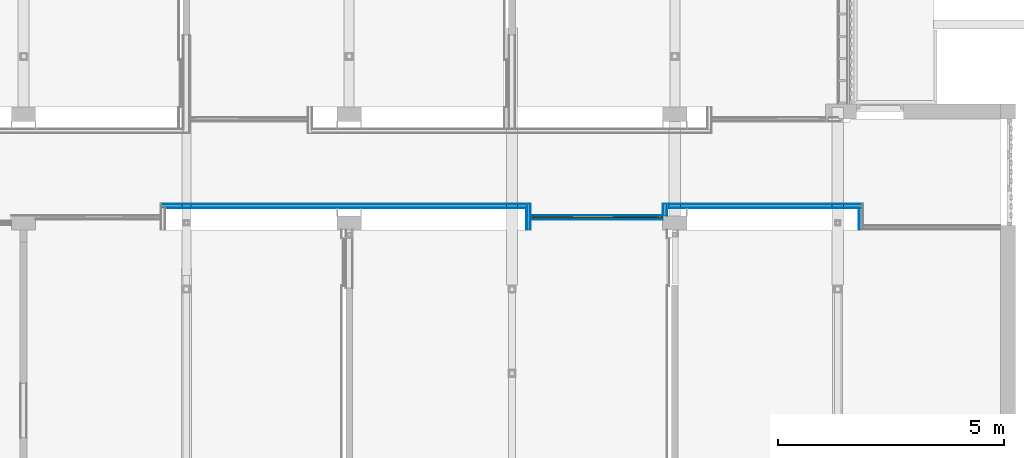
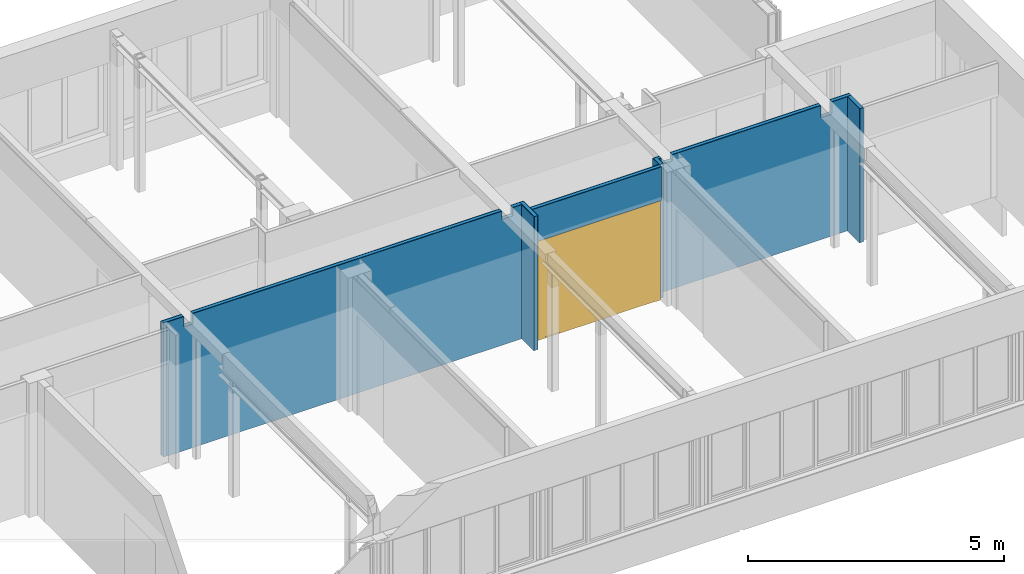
# One storey, part 68 of 99: 17 building element parts, 1 door, 1 opening, 6 elements without a shape of their own.
"""IFC2X3 building model written with IfcOpenShell, lengths in millimetres."""

import ifcopenshell
import ifcopenshell.guid

model = None  # the IFC model being written
_history = None  # IfcOwnerHistory: only IFC2X3 demands one
_inside = {}  # id of a spatial element -> (the spatial element, [elements in it])
_under = {}  # id of a project, library or spatial element -> (it, [spatial elements below it])
_declared = {}  # id of a project -> (the project, [libraries it declares])
_typed = {}  # id of a type object -> (the type object, [elements of that type])
_made_of = {}  # id of a material, layer set ... -> (it, [elements and type objects made of it])


def new_model(schema):
    """Start an empty IFC model of exactly this schema.

    Asked for "IFC4X3", IfcOpenShell would pick the latest addendum, in which some entities
    have other attributes; the version numbers below select the first issue.
    IFC2X3 requires an IfcOwnerHistory on every rooted entity: one is made here for all.
    """
    global model, _history
    if schema == "IFC4X3":
        model = ifcopenshell.file(schema_version=(4, 3, 0, 0))
    else:
        model = ifcopenshell.file(schema=schema)
    _inside.clear()
    _under.clear()
    _declared.clear()
    _typed.clear()
    _made_of.clear()
    _history = None
    if model.schema == "IFC2X3":
        org = make("IfcOrganization", Name="unknown")
        user = make(
            "IfcPersonAndOrganization",
            ThePerson=make("IfcPerson", FamilyName="unknown"),
            TheOrganization=org,
        )
        app = make(
            "IfcApplication",
            ApplicationDeveloper=org,
            Version="unknown",
            ApplicationFullName="unknown",
            ApplicationIdentifier="unknown",
        )
        _history = make(
            "IfcOwnerHistory",
            OwningUser=user,
            OwningApplication=app,
            ChangeAction="ADDED",
            CreationDate=0,
        )
    return model


def make(cls, **values):
    """One entity of the class cls with the attributes given. An attribute that is None is left unset."""
    return model.create_entity(
        cls, **{name: value for name, value in values.items() if value is not None}
    )


def entity(cls, *values):
    """Any entity or typed value of the class cls, its attributes in the order of the schema. None: left unset."""
    e = model.create_entity(cls)
    for i, value in enumerate(values):
        if value is not None:
            e[i] = value
    return e


def rooted(cls, **values):
    """An entity with a GlobalId (a new one), such as an element, a storey or a relation."""
    return make(cls, GlobalId=ifcopenshell.guid.new(), OwnerHistory=_history, **values)


def si_unit(unit_type, name, prefix=None):
    """IfcSIUnit, for example si_unit("LENGTHUNIT", "METRE", prefix="MILLI")."""
    return make("IfcSIUnit", UnitType=unit_type, Prefix=prefix, Name=name)


def converted_unit(unit_type, name, factor, base, dimensions=None, offset=None):
    """IfcConversionBasedUnit, such as the inch: factor (a typed value) times the base unit."""
    return make(
        "IfcConversionBasedUnit"
        if offset is None
        else "IfcConversionBasedUnitWithOffset",
        ConversionOffset=offset,
        Dimensions=None
        if dimensions is None
        else entity("IfcDimensionalExponents", *dimensions),
        UnitType=unit_type,
        Name=name,
        ConversionFactor=make(
            "IfcMeasureWithUnit", ValueComponent=factor, UnitComponent=base
        ),
    )


def derived_unit(unit_type, elements):
    """IfcDerivedUnit: a product of units, each with its exponent."""
    return make(
        "IfcDerivedUnit",
        Elements=[
            make("IfcDerivedUnitElement", Unit=unit, Exponent=power)
            for unit, power in elements
        ],
        UnitType=unit_type,
    )


def money_unit(currency):
    """IfcMonetaryUnit."""
    return make("IfcMonetaryUnit", Currency=currency)


def assignment(units):
    """IfcUnitAssignment: the units of a project."""
    return None if units is None else make("IfcUnitAssignment", Units=units)


def point(xyz):
    """IfcCartesianPoint."""
    return None if xyz is None else make("IfcCartesianPoint", Coordinates=xyz)


def direction(xyz):
    """IfcDirection."""
    return None if xyz is None else make("IfcDirection", DirectionRatios=xyz)


def frame(location, z_axis=None, x_axis=None):
    """IfcAxis2Placement3D, a coordinate frame: its origin and axes. An axis left out is left unset."""
    return make(
        "IfcAxis2Placement3D",
        Location=point(location),
        Axis=direction(z_axis),
        RefDirection=direction(x_axis),
    )


def origin_with_axes():
    """The frame at (0, 0, 0) with the z axis (0, 0, 1) and the x axis (1, 0, 0) written out."""
    return frame((0.0, 0.0, 0.0), z_axis=(0.0, 0.0, 1.0), x_axis=(1.0, 0.0, 0.0))


def place(relative_to, where):
    """IfcLocalPlacement: puts the frame where relative to a parent placement (None: the world)."""
    return make(
        "IfcLocalPlacement", PlacementRelTo=relative_to, RelativePlacement=where
    )


def context(
    kind, dimensions, precision=None, world=None, true_north=None, identifier=None
):
    """IfcGeometricRepresentationContext, for example the 3D "Model" context."""
    return make(
        "IfcGeometricRepresentationContext",
        ContextIdentifier=identifier,
        ContextType=kind,
        CoordinateSpaceDimension=dimensions,
        Precision=precision,
        WorldCoordinateSystem=world,
        TrueNorth=true_north,
    )


def subcontext(parent, identifier, kind, view, scale=None):
    """IfcGeometricRepresentationSubContext, for example "Body" below "Model"."""
    return make(
        "IfcGeometricRepresentationSubContext",
        ContextIdentifier=identifier,
        ContextType=kind,
        ParentContext=parent,
        TargetScale=scale,
        TargetView=view,
    )


def project(units=None, contexts=None):
    """IfcProject with its units and contexts."""
    return rooted(
        "IfcProject",
        Name="project",
        RepresentationContexts=contexts,
        UnitsInContext=assignment(units),
    )


def spatial(cls, under=None, at=None, **own):
    """A site, building, storey or space (cls), placed at a placement, below another one or the project."""
    s = rooted(cls, ObjectPlacement=at, **own)
    if under is not None:
        _under.setdefault(under.id(), (under, []))[1].append(s)
    return s


def faces_of(points, faces, orient=None, outer=None):
    """IfcFace entities. A face is a list of loops; a loop is a list of indices into points, from 0.

    orient and outer hold one flag for each loop. By default every Orientation is true, the
    first loop of a face is its IfcFaceOuterBound and the others are IfcFaceBound.
    """
    made = []
    for i, loops in enumerate(faces):
        bounds = []
        for j, loop in enumerate(loops):
            is_outer = j == 0 if outer is None else outer[i][j]
            bounds.append(
                make(
                    "IfcFaceOuterBound" if is_outer else "IfcFaceBound",
                    Bound=make("IfcPolyLoop", Polygon=[points[k] for k in loop]),
                    Orientation=True if orient is None else orient[i][j],
                )
            )
        made.append(make("IfcFace", Bounds=bounds))
    return made


def open_shell(faces, orient=None, outer=None):
    """The faces of one IfcOpenShell. surface_model builds it on its shared points."""
    return ("IfcOpenShell", faces, orient, outer)


def faceted_brep(points, faces, orient=None, outer=None, voids=None):
    """IfcFacetedBrep: a solid bounded by flat faces; with voids (closed shells), ...WithVoids."""
    shared = [point(p) for p in points]
    hull = make("IfcClosedShell", CfsFaces=faces_of(shared, faces, orient, outer))
    if voids is None:
        return make("IfcFacetedBrep", Outer=hull)
    return make(
        "IfcFacetedBrepWithVoids",
        Outer=hull,
        Voids=[
            make(cls, CfsFaces=faces_of(shared, fs, o, b)) for cls, fs, o, b in voids
        ],
    )


def surface_model(cls, points, shells):
    """IfcFaceBasedSurfaceModel or IfcShellBasedSurfaceModel (cls): surfaces that need not close."""
    shared = [point(p) for p in points]
    made = [make(c, CfsFaces=faces_of(shared, fs, o, b)) for c, fs, o, b in shells]
    if cls == "IfcFaceBasedSurfaceModel":
        return make(cls, FbsmFaces=made)
    return make(cls, SbsmBoundary=made)


def shape(context_of_items, identifier, shape_type, items):
    """IfcShapeRepresentation: the items that make up one representation, for example the "Body"."""
    return make(
        "IfcShapeRepresentation",
        ContextOfItems=context_of_items,
        RepresentationIdentifier=identifier,
        RepresentationType=shape_type,
        Items=items,
    )


def material(Name=None, Category=None):
    """IfcMaterial."""
    return make("IfcMaterial", Name=Name, Category=Category)


def made_of(thing, what):
    """Note that an element or type object is made of a material, layer set ...; save() writes the relation."""
    if what is not None:
        _made_of.setdefault(what.id(), (what, []))[1].append(thing)
    return thing


def type_object(cls, material=None, **own):
    """A type object (cls), such as IfcWallType, which elements share."""
    return made_of(rooted(cls, **own), material)


def element(
    cls,
    number,
    at=None,
    inside=None,
    cuts=None,
    type_object=None,
    material=None,
    context=None,
    identifier="Body",
    shape_type=None,
    held_by="IfcProductDefinitionShape",
    body=None,
    shapes=None,
    **own,
):
    """One element of the class cls, such as IfcWall. Its Tag is "e" and its number.

    at: its placement. inside: the storey or other place that contains it. cuts: it is an
    opening in that element (IfcRelVoidsElement). A single representation is given by context,
    identifier, shape_type and body (its items); several are given by shapes. held_by: the class
    of the entity that holds the representations. save() writes the other relations.
    """
    e = rooted(cls, Tag="e%d" % number, ObjectPlacement=at, **own)
    if body is not None:
        shapes = [shape(context, identifier, shape_type, body)]
    if shapes is not None:
        e.Representation = make(held_by, Representations=shapes)
    if inside is not None:
        _inside.setdefault(inside.id(), (inside, []))[1].append(e)
    if cuts is not None:
        rooted(
            "IfcRelVoidsElement", RelatingBuildingElement=cuts, RelatedOpeningElement=e
        )
    if type_object is not None:
        _typed.setdefault(type_object.id(), (type_object, []))[1].append(e)
    return made_of(e, material)


def fill(opening, filler):
    """IfcRelFillsElement: the door or window that sits in an opening."""
    return rooted(
        "IfcRelFillsElement",
        RelatingOpeningElement=opening,
        RelatedBuildingElement=filler,
    )


def aggregate(whole, parts):
    """IfcRelAggregates: a whole, such as a stair, and the parts it consists of."""
    return rooted("IfcRelAggregates", RelatingObject=whole, RelatedObjects=parts)


def save(model, path):
    """Write the relations noted so far, then the file.

    IfcRelAggregates (storeys below a building ...), IfcRelContainedInSpatialStructure (elements
    in a storey), IfcRelDefinesByType, IfcRelAssociatesMaterial and IfcRelDeclares: one each for
    every whole, place, type object, material and project.
    """
    for whole, parts in _under.values():
        aggregate(whole, parts)
    for where, things in _inside.values():
        rooted(
            "IfcRelContainedInSpatialStructure",
            RelatedElements=things,
            RelatingStructure=where,
        )
    for kind, things in _typed.values():
        rooted("IfcRelDefinesByType", RelatedObjects=things, RelatingType=kind)
    for what, things in _made_of.values():
        rooted("IfcRelAssociatesMaterial", RelatedObjects=things, RelatingMaterial=what)
    for by, libraries in _declared.values():
        rooted("IfcRelDeclares", RelatingContext=by, RelatedDefinitions=libraries)
    model.write(path)


model = new_model("IFC2X3")

# Units and contexts
model_context = context("Model", 3, precision=0.01, world=origin_with_axes(), true_north=direction((0.0, 1.0)))
body_context = subcontext(model_context, "Body", "Model", "MODEL_VIEW")
ifc_project = project(units=[si_unit("LENGTHUNIT", "METRE", prefix="MILLI"), si_unit("AREAUNIT", "SQUARE_METRE"), si_unit("VOLUMEUNIT", "CUBIC_METRE"), converted_unit("PLANEANGLEUNIT", "DEGREE", entity("IfcPlaneAngleMeasure", 0.0174532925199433), si_unit("PLANEANGLEUNIT", "RADIAN"), dimensions=[0, 0, 0, 0, 0, 0, 0]), money_unit("EUR"), converted_unit("TIMEUNIT", "Year", entity("IfcTimeMeasure", 31557600.0), si_unit("TIMEUNIT", "SECOND"), dimensions=[0, 0, 1, 0, 0, 0, 0]), si_unit("MASSUNIT", "GRAM", prefix="KILO"), si_unit("THERMODYNAMICTEMPERATUREUNIT", "DEGREE_CELSIUS"), si_unit("LUMINOUSINTENSITYUNIT", "LUMEN"), si_unit("ENERGYUNIT", "JOULE", prefix="MEGA"), derived_unit("THERMALCONDUCTANCEUNIT", [(si_unit("POWERUNIT", "WATT"), 1), (si_unit("LENGTHUNIT", "METRE"), -1), (si_unit("THERMODYNAMICTEMPERATUREUNIT", "KELVIN"), -1)]), derived_unit("SPECIFICHEATCAPACITYUNIT", [(si_unit("ENERGYUNIT", "JOULE"), 1), (si_unit("MASSUNIT", "GRAM", prefix="KILO"), -1), (si_unit("THERMODYNAMICTEMPERATUREUNIT", "KELVIN"), -1)]), derived_unit("MASSDENSITYUNIT", [(si_unit("MASSUNIT", "GRAM", prefix="KILO"), 1), (si_unit("VOLUMEUNIT", "CUBIC_METRE"), -1)])], contexts=[model_context])

# Site, building, storey
site_placement = place(None, origin_with_axes())
site = spatial("IfcSite", under=ifc_project, at=site_placement, Name="Site", CompositionType="ELEMENT")
building_placement = place(site_placement, origin_with_axes())
building = spatial("IfcBuilding", under=site, at=building_placement, Name="Naam gebouw", CompositionType="ELEMENT")
storey_placement = place(building_placement, frame((0.0, 0.0, 7650.0), z_axis=(0.0, 0.0, 1.0), x_axis=(1.0, 0.0, 0.0)))
storey = spatial("IfcBuildingStorey", under=building, at=storey_placement, Name="2e verdieping N", CompositionType="ELEMENT", Elevation=7650.0)

# Door
door_style = type_object("IfcDoorStyle", Name="D1 zl2 27", ConstructionType="NOTDEFINED", OperationType="USERDEFINED", ParameterTakesPrecedence=False, Sizeable=False)
wall_6_placement = place(storey_placement, frame((47220.00000000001, 18145.9124251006, 0.0), z_axis=(0.0, 0.0, 1.0), x_axis=(1.0, 0.0, 0.0)))
opening_placement = place(wall_6_placement, frame((1455.000000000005, 0.0, 0.0), z_axis=(0.0, 0.0, 1.0), x_axis=(1.0, 0.0, 0.0)))
door_placement = place(opening_placement, frame((1455.000000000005, 0.0, 0.0), z_axis=(0.0, 0.0, 1.0), x_axis=(-1.0, 0.0, 0.0)))
door = element("IfcDoor", 1, at=door_placement, inside=storey, type_object=door_style, Name="_Merk-x", ObjectType="DOOR", OverallHeight=2400.0, OverallWidth=2910.0, context=body_context, shape_type="SurfaceModel", body=[
    faceted_brep([(2910.000000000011, 10.00000000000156, 0.0), (2910.000000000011, -9.99999999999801, 0.0), (2880.00000000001, -9.99999999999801, 0.0), (2880.00000000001, 10.00000000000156, 0.0), (2910.000000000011, 10.00000000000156, 2369.999999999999), (2910.000000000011, -9.99999999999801, 2369.999999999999), (2880.00000000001, -9.99999999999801, 2369.999999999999), (2880.00000000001, -9.99999999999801, 30.00000000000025), (2880.00000000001, 10.00000000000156, 30.00000000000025), (2880.00000000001, 10.00000000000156, 2369.999999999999)], [[[0, 1, 2, 3]], [[4, 5, 1, 0]], [[1, 5, 6, 7, 2]], [[3, 2, 7, 8]], [[0, 3, 8, 9, 4]], [[9, 6, 5, 4]], [[8, 7, 6, 9]]]),
    faceted_brep([(1060.000000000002, -8.999999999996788, 0.0), (1060.000000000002, -9.99999999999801, 0.0), (1060.000000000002, -9.99999999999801, 2369.999999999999), (1060.000000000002, -8.999999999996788, 2369.999999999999), (1076.999999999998, -8.999999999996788, 0.0), (1076.999999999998, 10.00000000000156, 0.0), (1089.999999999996, 10.00000000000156, 0.0), (1089.999999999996, -9.99999999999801, 0.0), (1089.999999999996, -9.99999999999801, 30.00000000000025), (1089.999999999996, -9.99999999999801, 2369.999999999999), (1076.999999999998, -8.999999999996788, 2369.999999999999), (1089.999999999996, 10.00000000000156, 2369.999999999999), (1076.999999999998, 10.00000000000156, 2369.999999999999), (1089.999999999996, 10.00000000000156, 30.00000000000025)], [[[0, 1, 2, 3]], [[4, 5, 6, 7, 1, 0]], [[7, 8, 9, 2, 1]], [[10, 3, 2, 9, 11, 12]], [[10, 4, 0, 3]], [[12, 5, 4, 10]], [[12, 11, 13, 6, 5]], [[6, 13, 8, 7]], [[13, 11, 9, 8]]]),
    faceted_brep([(2880.00000000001, 10.00000000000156, 30.00000000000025), (2880.00000000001, -9.99999999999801, 30.00000000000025), (2880.00000000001, -9.99999999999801, 0.0), (2880.00000000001, 10.00000000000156, 0.0), (1089.999999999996, 10.00000000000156, 30.00000000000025), (1089.999999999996, -9.99999999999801, 30.00000000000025), (1089.999999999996, -9.99999999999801, 0.0), (1089.999999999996, 10.00000000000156, 0.0)], [[[0, 1, 2, 3]], [[4, 5, 1, 0]], [[1, 5, 6, 2]], [[3, 2, 6, 7]], [[0, 3, 7, 4]], [[7, 6, 5, 4]]]),
    faceted_brep([(0.0, 10.00000000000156, 0.0), (0.0, -9.99999999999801, 0.0), (0.0, -9.99999999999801, 2369.999999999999), (0.0, 10.00000000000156, 2369.999999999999), (30.00000000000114, 10.00000000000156, 0.0), (30.00000000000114, -9.99999999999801, 0.0), (30.00000000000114, -9.99999999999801, 30.00000000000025), (30.00000000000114, -9.99999999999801, 2369.999999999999), (30.00000000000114, 10.00000000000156, 2369.999999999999), (30.00000000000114, 10.00000000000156, 30.00000000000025)], [[[0, 1, 2, 3]], [[4, 5, 1, 0]], [[1, 5, 6, 7, 2]], [[3, 2, 7, 8]], [[0, 3, 8, 9, 4]], [[9, 6, 5, 4]], [[8, 7, 6, 9]]]),
    faceted_brep([(143.0000000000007, -8.999999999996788, 2369.999999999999), (143.0000000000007, 10.00000000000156, 2369.999999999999), (130.0000000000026, 10.00000000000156, 2369.999999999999), (130.0000000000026, -9.99999999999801, 2369.999999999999), (159.9999999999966, -9.99999999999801, 2369.999999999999), (159.9999999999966, -8.999999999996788, 2369.999999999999), (143.0000000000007, -8.999999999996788, 0.0), (143.0000000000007, 10.00000000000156, 0.0), (130.0000000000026, 10.00000000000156, 0.0), (130.0000000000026, 10.00000000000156, 30.00000000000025), (130.0000000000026, -9.99999999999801, 30.00000000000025), (159.9999999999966, -9.99999999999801, 0.0), (130.0000000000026, -9.99999999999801, 0.0), (159.9999999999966, -8.999999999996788, 0.0)], [[[0, 1, 2, 3, 4, 5]], [[0, 6, 7, 1]], [[7, 8, 9, 2, 1]], [[2, 9, 10, 3]], [[11, 4, 3, 10, 12]], [[5, 4, 11, 13]], [[5, 13, 6, 0]], [[6, 13, 11, 12, 8, 7]], [[9, 8, 12, 10]]]),
    faceted_brep([(130.0000000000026, 10.00000000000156, 30.00000000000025), (130.0000000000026, -9.99999999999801, 30.00000000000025), (130.0000000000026, -9.99999999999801, 0.0), (130.0000000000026, 10.00000000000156, 0.0), (30.00000000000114, 10.00000000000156, 30.00000000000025), (30.00000000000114, -9.99999999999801, 30.00000000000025), (30.00000000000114, -9.99999999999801, 0.0), (30.00000000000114, 10.00000000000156, 0.0)], [[[0, 1, 2, 3]], [[4, 5, 1, 0]], [[1, 5, 6, 2]], [[3, 2, 6, 7]], [[0, 3, 7, 4]], [[7, 6, 5, 4]]]),
    faceted_brep([(1076.999999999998, 10.00000000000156, 2387.0), (143.0000000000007, 10.00000000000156, 2387.0), (143.0000000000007, 10.00000000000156, 2369.999999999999), (130.0000000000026, 10.00000000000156, 2369.999999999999), (30.00000000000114, 10.00000000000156, 2369.999999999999), (0.0, 10.00000000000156, 2369.999999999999), (0.0, 10.00000000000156, 2400.0), (2910.000000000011, 10.00000000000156, 2400.0), (2910.000000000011, 10.00000000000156, 2369.999999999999), (2880.00000000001, 10.00000000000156, 2369.999999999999), (1089.999999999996, 10.00000000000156, 2369.999999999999), (1076.999999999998, 10.00000000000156, 2369.999999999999), (1076.999999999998, -8.999999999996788, 2387.0), (143.0000000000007, -8.999999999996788, 2387.0), (143.0000000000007, -8.999999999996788, 2369.999999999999), (159.9999999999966, -8.999999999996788, 2369.999999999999), (159.9999999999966, -9.99999999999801, 2369.999999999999), (130.0000000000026, -9.99999999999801, 2369.999999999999), (30.00000000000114, -9.99999999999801, 2369.999999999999), (0.0, -9.99999999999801, 2369.999999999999), (0.0, -9.99999999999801, 2400.0), (2910.000000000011, -9.99999999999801, 2400.0), (2910.000000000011, -9.99999999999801, 2369.999999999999), (2880.00000000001, -9.99999999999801, 2369.999999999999), (1089.999999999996, -9.99999999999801, 2369.999999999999), (1076.999999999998, -8.999999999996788, 2369.999999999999), (1060.000000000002, -9.99999999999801, 2369.999999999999)], [[[0, 1, 2, 3, 4, 5, 6, 7, 8, 9, 10, 11]], [[0, 12, 13, 1]], [[1, 13, 14, 2]], [[14, 15, 16, 17, 18, 4, 3, 2]], [[5, 4, 18, 19]], [[6, 5, 19, 20]], [[7, 6, 20, 21]], [[8, 7, 21, 22]], [[9, 8, 22, 23]], [[10, 9, 23, 24]], [[25, 11, 10, 24, 26, 16, 15]], [[11, 25, 12, 0]], [[14, 13, 12, 25, 15]], [[18, 17, 16, 26, 24, 23, 22, 21, 20, 19]]]),
    faceted_brep([(143.0000000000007, 1.000000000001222, 0.0), (1076.999999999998, 1.000000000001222, 0.0), (1076.999999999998, -8.999999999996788, 0.0), (143.0000000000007, -8.999999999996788, 0.0), (143.0000000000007, 1.000000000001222, 2387.0), (1076.999999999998, 1.000000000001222, 2387.0), (1076.999999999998, -9.000000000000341, 2387.0), (143.0000000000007, -9.000000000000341, 2387.0)], [[[0, 1, 2, 3]], [[0, 4, 5, 1]], [[1, 5, 6, 2]], [[3, 2, 6, 7]], [[4, 0, 3, 7]], [[5, 4, 7, 6]]]),
    surface_model("IfcShellBasedSurfaceModel", [(2880.00000000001, 9.000000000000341, 30.00000000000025), (1089.999999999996, 9.000000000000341, 30.00000000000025), (1089.999999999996, 9.000000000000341, 2369.999999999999), (2880.00000000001, 9.000000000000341, 2369.999999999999)], [open_shell([[[0, 1, 2, 3]]])]),
    surface_model("IfcShellBasedSurfaceModel", [(2880.00000000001, 1.000000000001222, 30.00000000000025), (2880.00000000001, 1.000000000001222, 2369.999999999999), (1089.999999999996, 1.000000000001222, 2369.999999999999), (1089.999999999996, 1.000000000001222, 30.00000000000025)], [open_shell([[[0, 1, 2, 3]]])]),
    surface_model("IfcShellBasedSurfaceModel", [(130.0000000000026, 9.000000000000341, 30.00000000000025), (30.00000000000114, 9.000000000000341, 30.00000000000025), (30.00000000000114, 9.000000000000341, 2369.999999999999), (130.0000000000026, 9.000000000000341, 2369.999999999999)], [open_shell([[[0, 1, 2, 3]]])]),
    surface_model("IfcShellBasedSurfaceModel", [(130.0000000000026, 1.000000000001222, 30.00000000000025), (130.0000000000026, 1.000000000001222, 2369.999999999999), (30.00000000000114, 1.000000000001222, 2369.999999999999), (30.00000000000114, 1.000000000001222, 30.00000000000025)], [open_shell([[[0, 1, 2, 3]]])]),
])

# Wall, building element parts
wall_type = type_object("IfcWallType", Name="Metalstud iso 100 100", PredefinedType="NOTDEFINED")
wall_1_placement = place(storey_placement, frame((50229.99999999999, 17870.91242510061, 0.0), z_axis=(0.0, 0.0, 1.0), x_axis=(0.0, 1.0, 0.0)))
wall_1 = element("IfcWall", 2, at=wall_1_placement, inside=storey, type_object=wall_type, Name="_Wand-x")
ifc_material_1 = material(Name="Gipsplaat")
building_element_part_1_placement = place(wall_1_placement, origin_with_axes())
building_element_part_1 = element("IfcBuildingElementPart", 3, at=building_element_part_1_placement, material=ifc_material_1, Name="Gipsplaat", context=body_context, shape_type="Brep", body=[
    faceted_brep([(310.0000000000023, 100.0000000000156, 3199.999999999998), (310.0000000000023, 87.49999999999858, 3199.999999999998), (574.9999999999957, 87.49999999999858, 3199.999999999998), (574.9999999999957, 100.0000000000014, 3199.999999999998), (310.0000000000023, 87.49999999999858, 0.0), (310.0000000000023, 100.0000000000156, 0.0), (574.9999999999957, 87.49999999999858, 0.0), (574.9999999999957, 100.0000000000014, 0.0)], [[[0, 1, 2, 3]], [[4, 1, 0, 5]], [[1, 4, 6, 2]], [[3, 2, 6, 7]], [[5, 0, 3, 7]], [[4, 5, 7, 6]]]),
])
ifc_material_2 = material(Name="Isolatie - Steenwol LSW")
building_element_part_2_placement = place(wall_1_placement, origin_with_axes())
building_element_part_2 = element("IfcBuildingElementPart", 4, at=building_element_part_2_placement, material=ifc_material_2, Name="Isolatie - Steenwol LSW", context=body_context, shape_type="Brep", body=[
    faceted_brep([(310.0000000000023, 87.49999999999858, 3199.999999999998), (310.0000000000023, 12.50000000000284, 3199.999999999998), (562.499999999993, 12.50000000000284, 3199.999999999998), (562.499999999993, 87.49999999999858, 3199.999999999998), (310.0000000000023, 12.50000000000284, 0.0), (310.0000000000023, 87.49999999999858, 0.0), (562.499999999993, 12.50000000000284, 0.0), (562.499999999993, 87.49999999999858, 0.0)], [[[0, 1, 2, 3]], [[4, 1, 0, 5]], [[1, 4, 6, 2]], [[3, 2, 6, 7]], [[5, 0, 3, 7]], [[4, 5, 7, 6]]]),
])
building_element_part_3_placement = place(wall_1_placement, origin_with_axes())
building_element_part_3 = element("IfcBuildingElementPart", 5, at=building_element_part_3_placement, material=ifc_material_1, Name="Gipsplaat", context=body_context, shape_type="Brep", body=[
    faceted_brep([(310.0000000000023, 12.50000000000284, 3199.999999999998), (310.0000000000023, 0.0, 3199.999999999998), (487.4999999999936, 0.0, 3199.999999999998), (487.4999999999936, 12.50000000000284, 3199.999999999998), (310.0000000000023, 0.0, 0.0), (310.0000000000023, 12.50000000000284, 0.0), (487.4999999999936, 0.0, 0.0), (487.4999999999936, 12.50000000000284, 0.0)], [[[0, 1, 2, 3]], [[4, 1, 0, 5]], [[1, 4, 6, 2]], [[3, 2, 6, 7]], [[5, 0, 3, 7]], [[4, 5, 7, 6]]]),
])
aggregate(wall_1, [building_element_part_1, building_element_part_2, building_element_part_3])

wall_2_placement = place(storey_placement, frame((50229.99999999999, 18345.9124251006, 0.0), z_axis=(0.0, 0.0, 1.0), x_axis=(1.0, 0.0, 0.0)))
wall_2 = element("IfcWall", 6, at=wall_2_placement, inside=storey, type_object=wall_type, Name="_Wand-x")
building_element_part_4_placement = place(wall_2_placement, origin_with_axes())
building_element_part_4 = element("IfcBuildingElementPart", 7, at=building_element_part_4_placement, material=ifc_material_1, Name="Gipsplaat", context=body_context, shape_type="Brep", body=[
    faceted_brep([(45.00000000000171, 100.0000000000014, 3049.999999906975), (295.0000000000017, 100.0000000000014, 3049.999999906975), (295.0000000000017, 100.0000000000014, 3199.999999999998), (3644.999999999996, 100.0000000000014, 3199.999999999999), (3644.999999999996, 100.0000000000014, 2909.997805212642), (3894.999999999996, 100.0000000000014, 2909.997805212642), (3894.999999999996, 100.0000000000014, 3199.999999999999), (4339.999999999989, 100.0000000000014, 3199.999999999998), (4339.999999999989, 100.0000000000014, 0.0), (-87.49999999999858, 100.0000000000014, 0.0), (-87.49999999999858, 100.0000000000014, 3199.999999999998), (45.00000000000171, 100.0000000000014, 3199.999999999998), (45.00000000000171, 87.50000000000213, 3049.999999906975), (295.0000000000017, 87.50000000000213, 3049.999999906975), (295.0000000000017, 87.49999999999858, 3199.999999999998), (3644.999999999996, 87.50000000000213, 3199.999999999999), (3644.999999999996, 87.50000000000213, 2909.997805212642), (3894.999999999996, 87.50000000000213, 2909.997805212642), (3894.999999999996, 87.50000000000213, 3199.999999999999), (4339.999999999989, 87.50000000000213, 3199.999999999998), (4339.999999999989, 87.49999999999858, 0.0), (-87.49999999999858, 87.49999999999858, 0.0), (-87.49999999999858, 87.49999999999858, 3199.999999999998), (45.00000000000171, 87.49999999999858, 3199.999999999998)], [[[0, 1, 2, 3, 4, 5, 6, 7, 8, 9, 10, 11]], [[1, 0, 12, 13]], [[14, 2, 1, 13]], [[2, 14, 15, 3]], [[4, 3, 15, 16]], [[5, 4, 16, 17]], [[18, 6, 5, 17]], [[6, 18, 19, 7]], [[7, 19, 20, 8]], [[8, 20, 21, 9]], [[21, 22, 10, 9]], [[23, 11, 10, 22]], [[0, 11, 23, 12]], [[12, 23, 22, 21, 20, 19, 18, 17, 16, 15, 14, 13]]]),
])
building_element_part_5_placement = place(wall_2_placement, origin_with_axes())
building_element_part_5 = element("IfcBuildingElementPart", 8, at=building_element_part_5_placement, material=ifc_material_1, Name="Gipsplaat", context=body_context, shape_type="Brep", body=[
    faceted_brep([(45.00000000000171, 12.49999999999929, 3049.999999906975), (295.0000000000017, 12.49999999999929, 3049.999999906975), (295.0000000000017, 12.49999999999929, 3199.999999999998), (3644.999999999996, 12.49999999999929, 3199.999999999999), (3644.999999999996, 12.49999999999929, 2909.997805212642), (3894.999999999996, 12.49999999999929, 2909.997805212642), (3894.999999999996, 12.49999999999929, 3199.999999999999), (4252.499999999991, 12.49999999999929, 3199.999999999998), (4252.499999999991, 12.49999999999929, 0.0), (0.0, 12.49999999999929, 0.0), (0.0, 12.49999999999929, 3199.999999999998), (45.00000000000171, 12.49999999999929, 3199.999999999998), (45.00000000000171, 0.0, 3049.999999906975), (295.0000000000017, 0.0, 3049.999999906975), (295.0000000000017, 0.0, 3199.999999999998), (3644.999999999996, 0.0, 3199.999999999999), (3644.999999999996, 0.0, 2909.997805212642), (3894.999999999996, 0.0, 2909.997805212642), (3894.999999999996, 0.0, 3199.999999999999), (4252.499999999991, 0.0, 3199.999999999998), (4252.499999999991, 0.0, 0.0), (0.0, 0.0, 0.0), (0.0, 0.0, 3199.999999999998), (45.00000000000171, 0.0, 3199.999999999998)], [[[0, 1, 2, 3, 4, 5, 6, 7, 8, 9, 10, 11]], [[1, 0, 12, 13]], [[14, 2, 1, 13]], [[2, 14, 15, 3]], [[4, 3, 15, 16]], [[5, 4, 16, 17]], [[18, 6, 5, 17]], [[6, 18, 19, 7]], [[7, 19, 20, 8]], [[8, 20, 21, 9]], [[21, 22, 10, 9]], [[23, 11, 10, 22]], [[0, 11, 23, 12]], [[12, 23, 22, 21, 20, 19, 18, 17, 16, 15, 14, 13]]]),
])
building_element_part_6_placement = place(wall_2_placement, origin_with_axes())
building_element_part_6 = element("IfcBuildingElementPart", 9, at=building_element_part_6_placement, material=ifc_material_2, Name="Isolatie - Steenwol LSW", context=body_context, shape_type="Brep", body=[
    faceted_brep([(45.00000000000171, 87.49999999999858, 3049.999999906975), (295.0000000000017, 87.49999999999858, 3049.999999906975), (295.0000000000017, 87.49999999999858, 3199.999999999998), (3644.999999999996, 87.50000000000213, 3199.999999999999), (3644.999999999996, 87.49999999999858, 2909.997805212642), (3894.999999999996, 87.49999999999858, 2909.997805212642), (3894.999999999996, 87.50000000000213, 3199.999999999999), (4327.499999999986, 87.50000000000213, 3199.999999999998), (4327.499999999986, 87.49999999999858, 0.0), (-12.50000000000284, 87.49999999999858, 0.0), (-12.50000000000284, 87.49999999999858, 3199.999999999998), (45.00000000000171, 87.49999999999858, 3199.999999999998), (45.00000000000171, 12.49999999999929, 3049.999999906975), (295.0000000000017, 12.49999999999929, 3049.999999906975), (295.0000000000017, 12.49999999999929, 3199.999999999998), (3644.999999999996, 12.49999999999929, 3199.999999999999), (3644.999999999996, 12.49999999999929, 2909.997805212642), (3894.999999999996, 12.49999999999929, 2909.997805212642), (3894.999999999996, 12.49999999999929, 3199.999999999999), (4327.499999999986, 12.49999999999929, 3199.999999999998), (4327.499999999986, 12.49999999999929, 0.0), (-12.50000000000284, 12.49999999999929, 0.0), (-12.50000000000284, 12.49999999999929, 3199.999999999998), (45.00000000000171, 12.49999999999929, 3199.999999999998)], [[[0, 1, 2, 3, 4, 5, 6, 7, 8, 9, 10, 11]], [[1, 0, 12, 13]], [[14, 2, 1, 13]], [[2, 14, 15, 3]], [[4, 3, 15, 16]], [[5, 4, 16, 17]], [[18, 6, 5, 17]], [[6, 18, 19, 7]], [[7, 19, 20, 8]], [[8, 20, 21, 9]], [[21, 22, 10, 9]], [[23, 11, 10, 22]], [[0, 11, 23, 12]], [[12, 23, 22, 21, 20, 19, 18, 17, 16, 15, 14, 13]]]),
])
aggregate(wall_2, [building_element_part_4, building_element_part_5, building_element_part_6])

wall_3_placement = place(storey_placement, frame((54469.99999999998, 17870.91242510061, 0.0), z_axis=(0.0, 0.0, 1.0), x_axis=(0.0, 1.0, 0.0)))
wall_3 = element("IfcWall", 10, at=wall_3_placement, inside=storey, type_object=wall_type, Name="_Wand-x")
building_element_part_7_placement = place(wall_3_placement, origin_with_axes())
building_element_part_7 = element("IfcBuildingElementPart", 11, at=building_element_part_7_placement, material=ifc_material_2, Name="Isolatie - Steenwol LSW", context=body_context, shape_type="Brep", body=[
    faceted_brep([(487.4999999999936, -87.49999999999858, 0.0), (0.0, -87.49999999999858, 0.0), (0.0, -12.50000000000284, 0.0), (487.4999999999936, -12.50000000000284, 0.0), (487.4999999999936, -87.49999999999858, 3199.999999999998), (0.0, -87.49999999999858, 3199.999999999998), (0.0, -12.50000000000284, 3199.999999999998), (487.4999999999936, -12.50000000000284, 3199.999999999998)], [[[0, 1, 2, 3]], [[4, 5, 1, 0]], [[2, 1, 5, 6]], [[3, 2, 6, 7]], [[3, 7, 4, 0]], [[7, 6, 5, 4]]]),
])
building_element_part_8_placement = place(wall_3_placement, origin_with_axes())
building_element_part_8 = element("IfcBuildingElementPart", 12, at=building_element_part_8_placement, material=ifc_material_1, Name="Gipsplaat", context=body_context, shape_type="Brep", body=[
    faceted_brep([(474.9999999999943, -12.50000000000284, 0.0), (0.0, -12.50000000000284, 0.0), (0.0, 0.0, 0.0), (474.9999999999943, 0.0, 0.0), (474.9999999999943, -12.50000000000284, 3199.999999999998), (0.0, -12.50000000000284, 3199.999999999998), (0.0, 0.0, 3199.999999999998), (474.9999999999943, 0.0, 3199.999999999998)], [[[0, 1, 2, 3]], [[4, 5, 1, 0]], [[2, 1, 5, 6]], [[3, 2, 6, 7]], [[3, 7, 4, 0]], [[7, 6, 5, 4]]]),
])
aggregate(wall_3, [building_element_part_7, building_element_part_8])

wall_4_placement = place(storey_placement, frame((47120.00000000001, 18345.9124251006, 0.0), z_axis=(0.0, 0.0, 1.0), x_axis=(-1.0, 0.0, 0.0)))
wall_4 = element("IfcWall", 13, at=wall_4_placement, inside=storey, type_object=wall_type, Name="_Wand-x")
building_element_part_9_placement = place(wall_4_placement, origin_with_axes())
building_element_part_9 = element("IfcBuildingElementPart", 14, at=building_element_part_9_placement, material=ifc_material_2, Name="Isolatie - Steenwol LSW", context=body_context, shape_type="Brep", body=[
    faceted_brep([(7620.000000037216, -87.49999999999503, 2949.999999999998), (7419.999999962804, -87.49999999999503, 2949.999999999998), (7419.999999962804, -87.49999999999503, 3199.999999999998), (445.0000000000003, -87.49999999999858, 3199.999999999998), (445.0000000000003, -87.49999999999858, 2999.999999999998), (195.0000000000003, -87.49999999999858, 2999.999999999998), (195.0000000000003, -87.49999999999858, 3199.999999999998), (-12.50000000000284, -87.49999999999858, 3199.999999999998), (-12.50000000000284, -87.49999999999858, 0.0), (8077.500000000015, -87.49999999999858, 0.0), (8077.500000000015, -87.49999999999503, 3199.999999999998), (7620.000000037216, -87.49999999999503, 3199.999999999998), (7620.000000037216, -12.49999999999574, 2949.999999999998), (7419.999999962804, -12.49999999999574, 2949.999999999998), (7419.999999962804, -12.49999999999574, 3199.999999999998), (445.0000000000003, -12.49999999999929, 3199.999999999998), (445.0000000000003, -12.49999999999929, 2999.999999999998), (195.0000000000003, -12.49999999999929, 2999.999999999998), (195.0000000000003, -12.49999999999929, 3199.999999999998), (-12.50000000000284, -12.49999999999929, 3199.999999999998), (-12.50000000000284, -12.49999999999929, 0.0), (8077.500000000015, -12.49999999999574, 0.0), (8077.500000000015, -12.49999999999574, 3199.999999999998), (7620.000000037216, -12.49999999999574, 3199.999999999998)], [[[0, 1, 2, 3, 4, 5, 6, 7, 8, 9, 10, 11]], [[1, 0, 12, 13]], [[14, 2, 1, 13]], [[2, 14, 15, 3]], [[4, 3, 15, 16]], [[5, 4, 16, 17]], [[18, 6, 5, 17]], [[6, 18, 19, 7]], [[19, 20, 8, 7]], [[21, 9, 8, 20]], [[9, 21, 22, 10]], [[23, 11, 10, 22]], [[0, 11, 23, 12]], [[12, 23, 22, 21, 20, 19, 18, 17, 16, 15, 14, 13]]]),
])
building_element_part_10_placement = place(wall_4_placement, origin_with_axes())
building_element_part_10 = element("IfcBuildingElementPart", 15, at=building_element_part_10_placement, material=ifc_material_1, Name="Gipsplaat", context=body_context, shape_type="Brep", body=[
    faceted_brep([(7620.000000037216, -12.49999999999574, 2949.999999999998), (7419.999999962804, -12.49999999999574, 2949.999999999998), (7419.999999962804, -12.49999999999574, 3199.999999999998), (445.0000000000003, -12.49999999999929, 3199.999999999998), (445.0000000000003, -12.49999999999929, 2999.999999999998), (195.0000000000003, -12.49999999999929, 2999.999999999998), (195.0000000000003, -12.49999999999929, 3199.999999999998), (0.0, -12.49999999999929, 3199.999999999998), (0.0, -12.49999999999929, 0.0), (8002.500000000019, -12.49999999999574, 0.0), (8002.500000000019, -12.49999999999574, 3199.999999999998), (7620.000000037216, -12.49999999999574, 3199.999999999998), (7620.000000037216, 0.0, 2949.999999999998), (7419.999999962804, 0.0, 2949.999999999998), (7419.999999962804, 0.0, 3199.999999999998), (445.0000000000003, 0.0, 3199.999999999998), (445.0000000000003, 0.0, 2999.999999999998), (195.0000000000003, 0.0, 2999.999999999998), (195.0000000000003, 0.0, 3199.999999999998), (0.0, 0.0, 3199.999999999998), (0.0, 0.0, 0.0), (8002.500000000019, 0.0, 0.0), (8002.500000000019, 0.0, 3199.999999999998), (7620.000000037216, 0.0, 3199.999999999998)], [[[0, 1, 2, 3, 4, 5, 6, 7, 8, 9, 10, 11]], [[1, 0, 12, 13]], [[14, 2, 1, 13]], [[2, 14, 15, 3]], [[4, 3, 15, 16]], [[5, 4, 16, 17]], [[18, 6, 5, 17]], [[6, 18, 19, 7]], [[19, 20, 8, 7]], [[21, 9, 8, 20]], [[9, 21, 22, 10]], [[23, 11, 10, 22]], [[0, 11, 23, 12]], [[12, 23, 22, 21, 20, 19, 18, 17, 16, 15, 14, 13]]]),
])
building_element_part_11_placement = place(wall_4_placement, origin_with_axes())
building_element_part_11 = element("IfcBuildingElementPart", 16, at=building_element_part_11_placement, material=ifc_material_1, Name="Gipsplaat", context=body_context, shape_type="Brep", body=[
    faceted_brep([(7620.000000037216, -99.99999999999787, 2949.999999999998), (7419.999999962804, -99.99999999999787, 2949.999999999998), (7419.999999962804, -99.99999999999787, 3199.999999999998), (445.0000000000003, -100.0000000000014, 3199.999999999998), (445.0000000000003, -100.0000000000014, 2999.999999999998), (195.0000000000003, -100.0000000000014, 2999.999999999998), (195.0000000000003, -100.0000000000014, 3199.999999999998), (-87.49999999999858, -100.0000000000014, 3199.999999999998), (-87.49999999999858, -100.0000000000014, 0.0), (8090.000000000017, -99.99999999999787, 0.0), (8090.000000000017, -99.99999999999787, 3199.999999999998), (7620.000000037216, -99.99999999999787, 3199.999999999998), (7620.000000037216, -87.49999999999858, 2949.999999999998), (7419.999999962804, -87.49999999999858, 2949.999999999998), (7419.999999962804, -87.49999999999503, 3199.999999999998), (445.0000000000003, -87.49999999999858, 3199.999999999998), (445.0000000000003, -87.50000000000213, 2999.999999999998), (195.0000000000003, -87.50000000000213, 2999.999999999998), (195.0000000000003, -87.49999999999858, 3199.999999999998), (-87.49999999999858, -87.49999999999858, 3199.999999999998), (-87.49999999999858, -87.49999999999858, 0.0), (8090.000000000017, -87.49999999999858, 0.0), (8090.000000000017, -87.49999999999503, 3199.999999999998), (7620.000000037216, -87.49999999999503, 3199.999999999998)], [[[0, 1, 2, 3, 4, 5, 6, 7, 8, 9, 10, 11]], [[1, 0, 12, 13]], [[14, 2, 1, 13]], [[2, 14, 15, 3]], [[4, 3, 15, 16]], [[5, 4, 16, 17]], [[18, 6, 5, 17]], [[6, 18, 19, 7]], [[19, 20, 8, 7]], [[21, 9, 8, 20]], [[9, 21, 22, 10]], [[23, 11, 10, 22]], [[0, 11, 23, 12]], [[12, 23, 22, 21, 20, 19, 18, 17, 16, 15, 14, 13]]]),
])
aggregate(wall_4, [building_element_part_9, building_element_part_10, building_element_part_11])

wall_5_placement = place(storey_placement, frame((47120.00000000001, 17870.91242510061, 0.0), z_axis=(0.0, 0.0, 1.0), x_axis=(0.0, 1.0, 0.0)))
wall_5 = element("IfcWall", 17, at=wall_5_placement, inside=storey, type_object=wall_type, Name="_Wand-x")
building_element_part_12_placement = place(wall_5_placement, origin_with_axes())
building_element_part_12 = element("IfcBuildingElementPart", 18, at=building_element_part_12_placement, material=ifc_material_1, Name="Gipsplaat", context=body_context, shape_type="Brep", body=[
    faceted_brep([(487.4999999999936, -12.50000000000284, 0.0), (0.0, -12.50000000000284, 0.0), (0.0, 0.0, 0.0), (487.4999999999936, 0.0, 0.0), (487.4999999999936, -12.50000000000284, 3199.999999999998), (0.0, -12.50000000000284, 3199.999999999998), (0.0, 0.0, 3199.999999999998), (487.4999999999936, 0.0, 3199.999999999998)], [[[0, 1, 2, 3]], [[4, 5, 1, 0]], [[2, 1, 5, 6]], [[3, 2, 6, 7]], [[3, 7, 4, 0]], [[7, 6, 5, 4]]]),
])
building_element_part_13_placement = place(wall_5_placement, origin_with_axes())
building_element_part_13 = element("IfcBuildingElementPart", 19, at=building_element_part_13_placement, material=ifc_material_2, Name="Isolatie - Steenwol LSW", context=body_context, shape_type="Brep", body=[
    faceted_brep([(562.499999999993, -87.49999999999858, 0.0), (0.0, -87.49999999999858, 0.0), (0.0, -12.50000000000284, 0.0), (562.499999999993, -12.50000000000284, 0.0), (562.499999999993, -87.49999999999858, 3199.999999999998), (0.0, -87.49999999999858, 3199.999999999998), (0.0, -12.50000000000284, 3199.999999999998), (562.499999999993, -12.50000000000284, 3199.999999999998)], [[[0, 1, 2, 3]], [[4, 5, 1, 0]], [[2, 1, 5, 6]], [[3, 2, 6, 7]], [[3, 7, 4, 0]], [[7, 6, 5, 4]]]),
])
building_element_part_14_placement = place(wall_5_placement, origin_with_axes())
building_element_part_14 = element("IfcBuildingElementPart", 20, at=building_element_part_14_placement, material=ifc_material_1, Name="Gipsplaat", context=body_context, shape_type="Brep", body=[
    faceted_brep([(574.9999999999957, -100.0000000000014, 0.0), (0.0, -100.0000000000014, 0.0), (0.0, -87.49999999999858, 0.0), (574.9999999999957, -87.49999999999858, 0.0), (574.9999999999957, -100.0000000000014, 3199.999999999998), (0.0, -100.0000000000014, 3199.999999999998), (0.0, -87.49999999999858, 3199.999999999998), (574.9999999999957, -87.49999999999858, 3199.999999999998)], [[[0, 1, 2, 3]], [[4, 5, 1, 0]], [[2, 1, 5, 6]], [[3, 2, 6, 7]], [[3, 7, 4, 0]], [[7, 6, 5, 4]]]),
])
aggregate(wall_5, [building_element_part_12, building_element_part_13, building_element_part_14])

# Wall, opening
wall_6 = element("IfcWall", 21, at=wall_6_placement, inside=storey, type_object=wall_type, Name="_Wand-x")
opening = element("IfcOpeningElement", 22, at=opening_placement, cuts=wall_6, Name="_Merk-x", context=body_context, shape_type="Brep", body=[
    faceted_brep([(1455.000000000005, -10.00000000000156, 0.0), (1455.000000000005, -10.00000000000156, 2400.0), (1455.000000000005, -51.00000000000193, 2400.0), (1455.000000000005, -51.00000000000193, 0.0), (1455.000000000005, 51.00000000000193, 0.0), (1455.000000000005, 51.00000000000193, 2400.0), (-1455.000000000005, -10.00000000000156, 2400.0), (-1455.000000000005, -51.00000000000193, 2400.0), (-1455.000000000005, 51.00000000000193, 2400.0), (-1455.000000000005, -51.00000000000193, 0.0), (-1455.000000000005, -10.00000000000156, 0.0), (-1455.000000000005, 51.00000000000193, 0.0)], [[[0, 1, 2, 3]], [[1, 0, 4, 5]], [[6, 7, 2, 1, 5, 8]], [[7, 9, 3, 2]], [[0, 3, 9, 10, 11, 4]], [[5, 4, 11, 8]], [[6, 10, 9, 7]], [[10, 6, 8, 11]]]),
])

fill(opening, door)

# Building element part
building_element_part_15_placement = place(wall_6_placement, origin_with_axes())
building_element_part_15 = element("IfcBuildingElementPart", 23, at=building_element_part_15_placement, material=ifc_material_2, Name="Isolatie - Steenwol LSW", context=body_context, shape_type="Brep", body=[
    faceted_brep([(2910.000000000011, -10.00000000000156, 2400.0), (2910.000000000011, 37.50000000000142, 2400.0), (2910.000000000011, 37.50000000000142, 3199.999999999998), (2910.000000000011, -37.49999999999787, 3199.999999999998), (2910.000000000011, -37.49999999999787, 2400.0), (0.0, -10.00000000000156, 2400.0), (0.0, 37.50000000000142, 2400.0), (0.0, -37.50000000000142, 2400.0), (0.0, 37.50000000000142, 3199.999999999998), (0.0, -37.50000000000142, 3199.999999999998)], [[[0, 1, 2, 3, 4]], [[5, 6, 1, 0, 4, 7]], [[1, 6, 8, 2]], [[2, 8, 9, 3]], [[4, 3, 9, 7]], [[6, 5, 7, 9, 8]]]),
])

building_element_part_16_placement = place(wall_6_placement, origin_with_axes())
building_element_part_16 = element("IfcBuildingElementPart", 24, at=building_element_part_16_placement, material=ifc_material_1, Name="Gipsplaat", context=body_context, shape_type="Brep", body=[
    faceted_brep([(2910.000000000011, -50.00000000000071, 2400.0), (2910.000000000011, -37.49999999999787, 2400.0), (2910.000000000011, -37.49999999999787, 3199.999999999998), (2910.000000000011, -50.00000000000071, 3199.999999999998), (0.0, -37.50000000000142, 2400.0), (0.0, -50.00000000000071, 2400.0), (0.0, -37.50000000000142, 3199.999999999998), (0.0, -50.00000000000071, 3199.999999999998)], [[[0, 1, 2, 3]], [[4, 1, 0, 5]], [[1, 4, 6, 2]], [[3, 2, 6, 7]], [[5, 0, 3, 7]], [[4, 5, 7, 6]]]),
])

building_element_part_17_placement = place(wall_6_placement, origin_with_axes())
building_element_part_17 = element("IfcBuildingElementPart", 25, at=building_element_part_17_placement, material=ifc_material_1, Name="Gipsplaat", context=body_context, shape_type="Brep", body=[
    faceted_brep([(2910.000000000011, 37.50000000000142, 2400.0), (2910.000000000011, 50.00000000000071, 2400.0), (2910.000000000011, 50.00000000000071, 3199.999999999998), (2910.000000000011, 37.50000000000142, 3199.999999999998), (0.0, 50.00000000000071, 2400.0), (0.0, 37.50000000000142, 2400.0), (0.0, 50.00000000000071, 3199.999999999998), (0.0, 37.50000000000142, 3199.999999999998)], [[[0, 1, 2, 3]], [[4, 1, 0, 5]], [[1, 4, 6, 2]], [[2, 6, 7, 3]], [[5, 0, 3, 7]], [[4, 5, 7, 6]]]),
])

aggregate(wall_6, [building_element_part_15, building_element_part_16, building_element_part_17])

save(model, "model.ifc")
